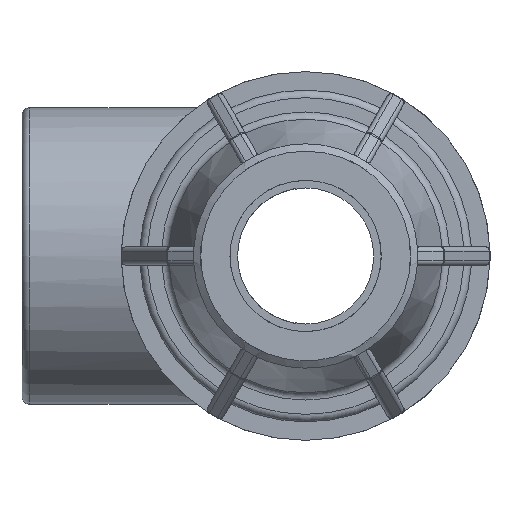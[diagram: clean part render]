
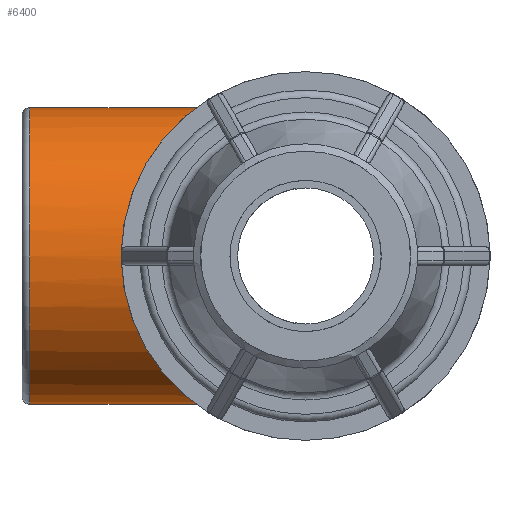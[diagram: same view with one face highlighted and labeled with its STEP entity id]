
A CAD part, left-side view. The second image highlights one B-rep face of the part: STEP entity #6400.
In plain terms, the highlighted cylindrical face has radius 15.676 mm (diameter 31.352 mm), a full revolution.
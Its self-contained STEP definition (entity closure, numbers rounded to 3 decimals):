
#1080=FACE_BOUND('',#1935,.T.);
#1492=FACE_OUTER_BOUND('',#1934,.T.);
#1934=EDGE_LOOP('',(#5843,#5844,#5845,#5846,#5847,#5848,#5849,#5850));
#1935=EDGE_LOOP('',(#5851));
#2283=CIRCLE('',#7151,15.676);
#2288=CIRCLE('',#7162,15.676);
#2290=CIRCLE('',#7165,15.676);
#2293=B_SPLINE_CURVE_WITH_KNOTS('',3,(#9069,#9070,#9071,#9072,#9073,#9074,
#9075,#9076,#9077,#9078,#9079,#9080,#9081,#9082),.UNSPECIFIED.,.F.,.F.,
(4,2,2,2,2,2,4),(1.546,1.568,1.823,2.078,
2.333,2.588,2.609),.UNSPECIFIED.);
#2296=B_SPLINE_CURVE_WITH_KNOTS('',3,(#9102,#9103,#9104,#9105),
 .UNSPECIFIED.,.F.,.F.,(4,4),(6.014,6.066),
 .UNSPECIFIED.);
#2297=B_SPLINE_CURVE_WITH_KNOTS('',3,(#9107,#9108,#9109,#9110),
 .UNSPECIFIED.,.F.,.F.,(4,4),(4.855,4.907),
 .UNSPECIFIED.);
#2393=B_SPLINE_CURVE_WITH_KNOTS('',3,(#10616,#10617,#10618,#10619),
 .UNSPECIFIED.,.F.,.F.,(4,4),(2.374,2.426),
 .UNSPECIFIED.);
#2394=B_SPLINE_CURVE_WITH_KNOTS('',3,(#10623,#10624,#10625,#10626),
 .UNSPECIFIED.,.F.,.F.,(4,4),(1.214,1.266),
 .UNSPECIFIED.);
#2396=B_SPLINE_CURVE_WITH_KNOTS('',3,(#10636,#10637,#10638,#10639,#10640,
#10641,#10642,#10643,#10644,#10645,#10646,#10647,#10648,#10649),
 .UNSPECIFIED.,.F.,.F.,(4,2,2,2,2,2,4),(5.701,5.723,
5.978,6.233,6.488,6.743,6.765),
 .UNSPECIFIED.);
#2497=VERTEX_POINT('',#9067);
#2498=VERTEX_POINT('',#9068);
#2502=VERTEX_POINT('',#9093);
#2503=VERTEX_POINT('',#9106);
#2771=VERTEX_POINT('',#10606);
#2772=VERTEX_POINT('',#10615);
#2773=VERTEX_POINT('',#10620);
#2774=VERTEX_POINT('',#10622);
#3049=VERTEX_POINT('',#12263);
#3052=EDGE_CURVE('',#2497,#2498,#2293,.T.);
#3057=EDGE_CURVE('',#2498,#2502,#2296,.T.);
#3058=EDGE_CURVE('',#2503,#2497,#2297,.T.);
#3513=EDGE_CURVE('',#2772,#2771,#2393,.T.);
#3515=EDGE_CURVE('',#2774,#2773,#2394,.T.);
#3517=EDGE_CURVE('',#2773,#2772,#2396,.T.);
#3981=EDGE_CURVE('',#2503,#2771,#2283,.T.);
#3986=EDGE_CURVE('',#3049,#3049,#2288,.T.);
#3988=EDGE_CURVE('',#2774,#2502,#2290,.T.);
#5843=ORIENTED_EDGE('',*,*,#3057,.T.);
#5844=ORIENTED_EDGE('',*,*,#3988,.F.);
#5845=ORIENTED_EDGE('',*,*,#3515,.T.);
#5846=ORIENTED_EDGE('',*,*,#3517,.T.);
#5847=ORIENTED_EDGE('',*,*,#3513,.T.);
#5848=ORIENTED_EDGE('',*,*,#3981,.F.);
#5849=ORIENTED_EDGE('',*,*,#3058,.T.);
#5850=ORIENTED_EDGE('',*,*,#3052,.T.);
#5851=ORIENTED_EDGE('',*,*,#3986,.F.);
#5990=CYLINDRICAL_SURFACE('',#7164,15.676);
#6400=ADVANCED_FACE('',(#1492,#1080),#5990,.T.);
#7151=AXIS2_PLACEMENT_3D('',#12252,#9021,#9022);
#7162=AXIS2_PLACEMENT_3D('',#12264,#9043,#9044);
#7164=AXIS2_PLACEMENT_3D('',#12267,#9047,#9048);
#7165=AXIS2_PLACEMENT_3D('',#12268,#9049,#9050);
#9021=DIRECTION('center_axis',(0.,-1.,0.));
#9022=DIRECTION('ref_axis',(1.,0.,0.));
#9043=DIRECTION('center_axis',(0.,1.,0.));
#9044=DIRECTION('ref_axis',(1.,0.,0.));
#9047=DIRECTION('center_axis',(0.,1.,0.));
#9048=DIRECTION('ref_axis',(-1.,0.,0.));
#9049=DIRECTION('center_axis',(0.,-1.,0.));
#9050=DIRECTION('ref_axis',(1.,0.,0.));
#9067=CARTESIAN_POINT('',(-14.78,11.685,-5.224));
#9068=CARTESIAN_POINT('',(-14.78,11.685,5.224));
#9069=CARTESIAN_POINT('Ctrl Pts',(-14.78,11.685,-5.224));
#9070=CARTESIAN_POINT('Ctrl Pts',(-14.803,11.715,-5.158));
#9071=CARTESIAN_POINT('Ctrl Pts',(-14.826,11.744,-5.092));
#9072=CARTESIAN_POINT('Ctrl Pts',(-15.114,12.107,-4.241));
#9073=CARTESIAN_POINT('Ctrl Pts',(-15.325,12.367,-3.411));
#9074=CARTESIAN_POINT('Ctrl Pts',(-15.606,12.714,-1.716));
#9075=CARTESIAN_POINT('Ctrl Pts',(-15.676,12.8,-0.85));
#9076=CARTESIAN_POINT('Ctrl Pts',(-15.676,12.8,0.85));
#9077=CARTESIAN_POINT('Ctrl Pts',(-15.606,12.714,1.716));
#9078=CARTESIAN_POINT('Ctrl Pts',(-15.325,12.367,3.411));
#9079=CARTESIAN_POINT('Ctrl Pts',(-15.114,12.107,4.241));
#9080=CARTESIAN_POINT('Ctrl Pts',(-14.826,11.744,5.092));
#9081=CARTESIAN_POINT('Ctrl Pts',(-14.803,11.715,5.158));
#9082=CARTESIAN_POINT('Ctrl Pts',(-14.78,11.685,5.224));
#9093=CARTESIAN_POINT('',(-14.631,11.331,5.627));
#9102=CARTESIAN_POINT('Ctrl Pts',(-14.78,11.685,5.224));
#9103=CARTESIAN_POINT('Ctrl Pts',(-14.732,11.572,5.36));
#9104=CARTESIAN_POINT('Ctrl Pts',(-14.682,11.454,5.495));
#9105=CARTESIAN_POINT('Ctrl Pts',(-14.631,11.331,5.627));
#9106=CARTESIAN_POINT('',(-14.631,11.331,-5.627));
#9107=CARTESIAN_POINT('Ctrl Pts',(-14.631,11.331,-5.627));
#9108=CARTESIAN_POINT('Ctrl Pts',(-14.682,11.454,-5.495));
#9109=CARTESIAN_POINT('Ctrl Pts',(-14.732,11.572,-5.36));
#9110=CARTESIAN_POINT('Ctrl Pts',(-14.78,11.685,-5.224));
#10606=CARTESIAN_POINT('',(14.631,11.331,-5.627));
#10615=CARTESIAN_POINT('',(14.78,11.685,-5.224));
#10616=CARTESIAN_POINT('Ctrl Pts',(14.78,11.685,-5.224));
#10617=CARTESIAN_POINT('Ctrl Pts',(14.732,11.572,-5.36));
#10618=CARTESIAN_POINT('Ctrl Pts',(14.682,11.454,-5.495));
#10619=CARTESIAN_POINT('Ctrl Pts',(14.631,11.331,-5.627));
#10620=CARTESIAN_POINT('',(14.78,11.685,5.224));
#10622=CARTESIAN_POINT('',(14.631,11.331,5.627));
#10623=CARTESIAN_POINT('Ctrl Pts',(14.631,11.331,5.627));
#10624=CARTESIAN_POINT('Ctrl Pts',(14.682,11.454,5.495));
#10625=CARTESIAN_POINT('Ctrl Pts',(14.732,11.572,5.36));
#10626=CARTESIAN_POINT('Ctrl Pts',(14.78,11.685,5.224));
#10636=CARTESIAN_POINT('Ctrl Pts',(14.78,11.685,5.224));
#10637=CARTESIAN_POINT('Ctrl Pts',(14.803,11.715,5.158));
#10638=CARTESIAN_POINT('Ctrl Pts',(14.826,11.744,5.092));
#10639=CARTESIAN_POINT('Ctrl Pts',(15.114,12.107,4.241));
#10640=CARTESIAN_POINT('Ctrl Pts',(15.325,12.367,3.411));
#10641=CARTESIAN_POINT('Ctrl Pts',(15.606,12.714,1.716));
#10642=CARTESIAN_POINT('Ctrl Pts',(15.676,12.8,0.85));
#10643=CARTESIAN_POINT('Ctrl Pts',(15.676,12.8,-0.85));
#10644=CARTESIAN_POINT('Ctrl Pts',(15.606,12.714,-1.716));
#10645=CARTESIAN_POINT('Ctrl Pts',(15.325,12.367,-3.411));
#10646=CARTESIAN_POINT('Ctrl Pts',(15.114,12.107,-4.241));
#10647=CARTESIAN_POINT('Ctrl Pts',(14.826,11.744,-5.092));
#10648=CARTESIAN_POINT('Ctrl Pts',(14.803,11.715,-5.158));
#10649=CARTESIAN_POINT('Ctrl Pts',(14.78,11.685,-5.224));
#12252=CARTESIAN_POINT('Origin',(0.,11.331,0.));
#12263=CARTESIAN_POINT('',(-15.676,29.2,0.));
#12264=CARTESIAN_POINT('Origin',(0.,29.2,0.));
#12267=CARTESIAN_POINT('Origin',(0.,20.5,0.));
#12268=CARTESIAN_POINT('Origin',(0.,11.331,0.));
